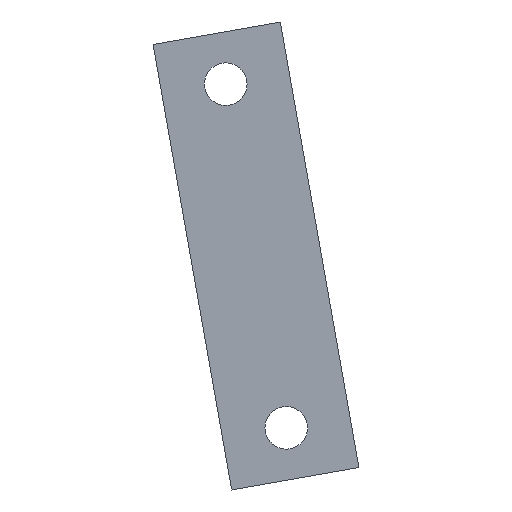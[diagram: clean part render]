
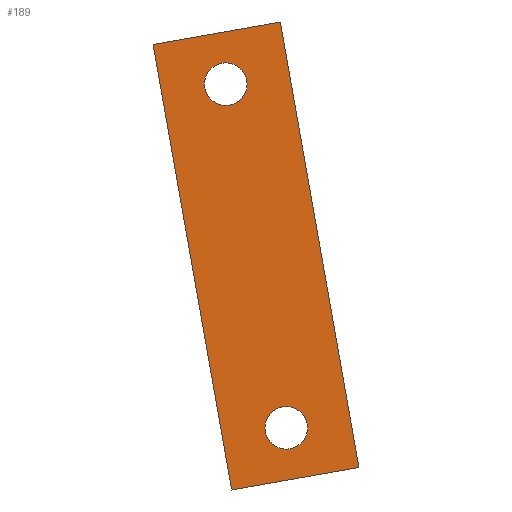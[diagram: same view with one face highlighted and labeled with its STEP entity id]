
A CAD part, left-side view. The second image highlights one B-rep face of the part: STEP entity #189.
In plain terms, the highlighted planar face has unit normal (-1, 0, 0).
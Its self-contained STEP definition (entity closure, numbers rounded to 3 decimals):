
#27=CARTESIAN_POINT('',(-173.5,-119.331,311.751));
#28=VERTEX_POINT('',#27);
#45=CARTESIAN_POINT('',(-173.5,-139.027,315.224));
#46=VERTEX_POINT('',#45);
#53=CARTESIAN_POINT('',(-173.5,-119.331,311.751));
#54=DIRECTION('',(0.0,-0.985,0.174));
#55=VECTOR('',#54,1.);
#56=LINE('',#53,#55);
#57=EDGE_CURVE('',#28,#46,#56,.T.);
#120=CARTESIAN_POINT('',(-173.5,-107.175,380.688));
#121=VERTEX_POINT('',#120);
#128=CARTESIAN_POINT('',(-173.5,-126.871,384.161));
#129=VERTEX_POINT('',#128);
#130=CARTESIAN_POINT('',(-173.5,-107.175,380.688));
#131=DIRECTION('',(0.0,-0.985,0.174));
#132=VECTOR('',#131,1.);
#133=LINE('',#130,#132);
#134=EDGE_CURVE('',#121,#129,#133,.T.);
#146=CARTESIAN_POINT('',(-173.5,-107.175,380.688));
#147=DIRECTION('',(-1.0,0.0,0.0));
#148=DIRECTION('',(0.0,-0.174,-0.985));
#149=AXIS2_PLACEMENT_3D('',#146,#147,#148);
#150=PLANE('',#149);
#151=CARTESIAN_POINT('',(-173.5,-107.175,380.688));
#152=DIRECTION('',(0.,-0.174,-0.985));
#153=VECTOR('',#152,1.);
#154=LINE('',#151,#153);
#155=EDGE_CURVE('',#121,#28,#154,.T.);
#156=ORIENTED_EDGE('',*,*,#155,.T.);
#157=ORIENTED_EDGE('',*,*,#57,.T.);
#158=CARTESIAN_POINT('',(-173.5,-126.871,384.161));
#159=DIRECTION('',(0.,-0.174,-0.985));
#160=VECTOR('',#159,1.);
#161=LINE('',#158,#160);
#162=EDGE_CURVE('',#129,#46,#161,.T.);
#163=ORIENTED_EDGE('',*,*,#162,.F.);
#164=ORIENTED_EDGE('',*,*,#134,.F.);
#165=EDGE_LOOP('',(#156,#157,#163,#164));
#166=FACE_OUTER_BOUND('',#165,.T.);
#167=CARTESIAN_POINT('',(-173.5,-117.839,377.796));
#168=VERTEX_POINT('',#167);
#169=CARTESIAN_POINT('',(-173.5,-118.412,374.546));
#170=DIRECTION('',(1.0,0.,0.));
#171=DIRECTION('',(0.,0.174,0.985));
#172=AXIS2_PLACEMENT_3D('',#169,#170,#171);
#173=CIRCLE('',#172,3.3);
#174=EDGE_CURVE('',#168,#168,#173,.T.);
#175=ORIENTED_EDGE('',*,*,#174,.T.);
#176=EDGE_LOOP('',(#175));
#177=FACE_BOUND('',#176,.T.);
#178=CARTESIAN_POINT('',(-173.5,-127.216,324.616));
#179=VERTEX_POINT('',#178);
#180=CARTESIAN_POINT('',(-173.5,-127.789,321.366));
#181=DIRECTION('',(1.0,0.,0.));
#182=DIRECTION('',(0.,0.174,0.985));
#183=AXIS2_PLACEMENT_3D('',#180,#181,#182);
#184=CIRCLE('',#183,3.3);
#185=EDGE_CURVE('',#179,#179,#184,.T.);
#186=ORIENTED_EDGE('',*,*,#185,.T.);
#187=EDGE_LOOP('',(#186));
#188=FACE_BOUND('',#187,.T.);
#189=ADVANCED_FACE('',(#166,#177,#188),#150,.T.);
